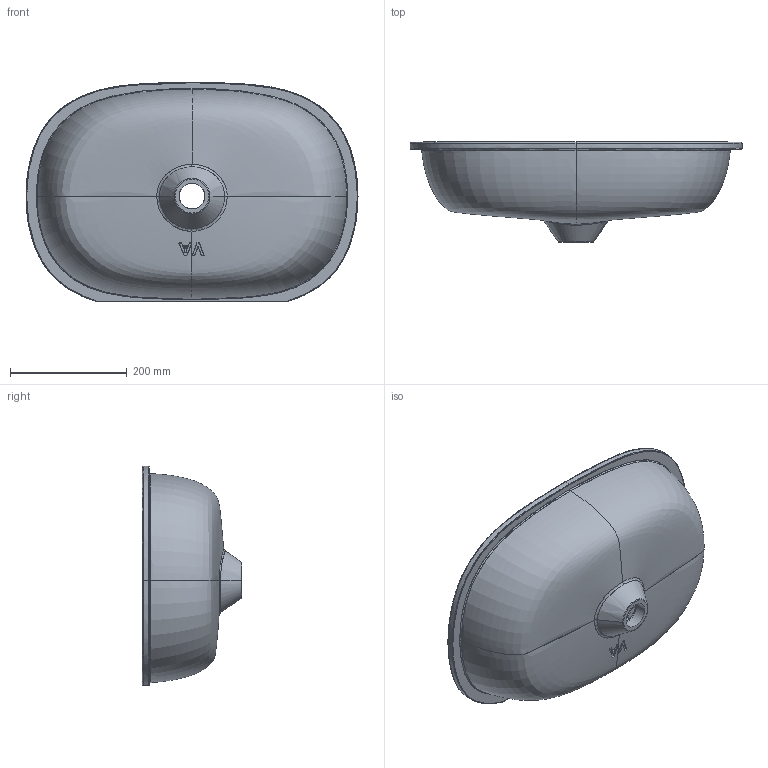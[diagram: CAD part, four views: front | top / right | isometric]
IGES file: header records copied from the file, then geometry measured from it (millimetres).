
Start section:  PTC IGES file: sku_UB-BAR-56-IO_igs.igs
Global section: file name: sku_UB-BAR-56-IO_igs.igs; native system: Creo Parametric by PTC Inc.; preprocessor: 2020281; author: ychen6; organization: Unknown; date: 20220909.104147; units: millimetre
Bounding box: 568.6 x 171.2 x 376.2 mm (x, y, z)
Surface area: 843591.5 mm2 (no closed solid volume)
Topology: 0 solids, 0 shells, 659 faces, 3110 edges, 3110 vertices
Faces by surface type: bspline 481, revolution 174, extrusion 4
